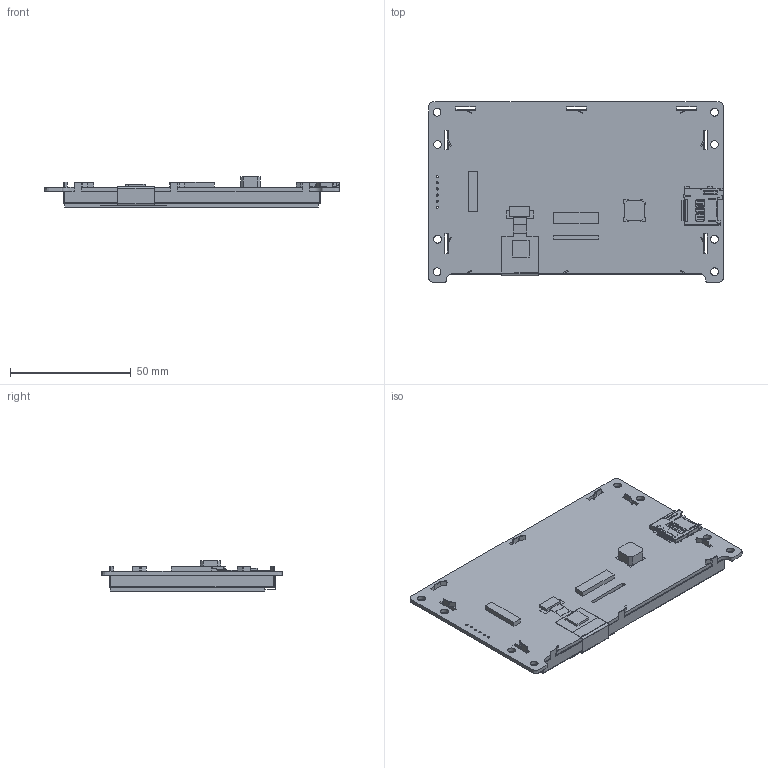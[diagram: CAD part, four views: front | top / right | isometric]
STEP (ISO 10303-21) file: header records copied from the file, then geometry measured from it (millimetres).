
FILE_DESCRIPTION(/* description */ (''),/* implementation_level */ '2;1');
FILE_NAME(/* name */ '',/* time_stamp */ '2023-05-19T14:37:25+08:00',/* author */ (''),/* organization */ (''),/* preprocessor_version */ 'ST-DEVELOPER v11',/* originating_system */ 'SIEMENS PLM Software NX 7.5',/* authorisation */ '');
FILE_SCHEMA (('AP203_CONFIGURATION_CONTROLLED_3D_DESIGN_OF_MECHANICAL_PARTS_AND_ASSEMBLIES_MIM_LF'));
Length unit declared in the file: millimetre
Products named in the file (1): SDWn043C23C
Bounding box: 121.9 x 74.7 x 12.52 mm (x, y, z)
Volume: 25497.6 mm3; surface area: 42721 mm2
Topology: 15 solids, 15 shells, 1225 faces, 3479 edges, 2261 vertices
Faces by surface type: plane 932, cylinder 291, cone 1, extrusion 1
Full cylindrical faces by diameter (mm): 0.889 x6, 3.2 x8
Entity records: 40567 total; most frequent: CARTESIAN_POINT 7113, ORIENTED_EDGE 6928, DIRECTION 6493, EDGE_CURVE 3464, VECTOR 2867, LINE 2866, VERTEX_POINT 2261, AXIS2_PLACEMENT_3D 1813
